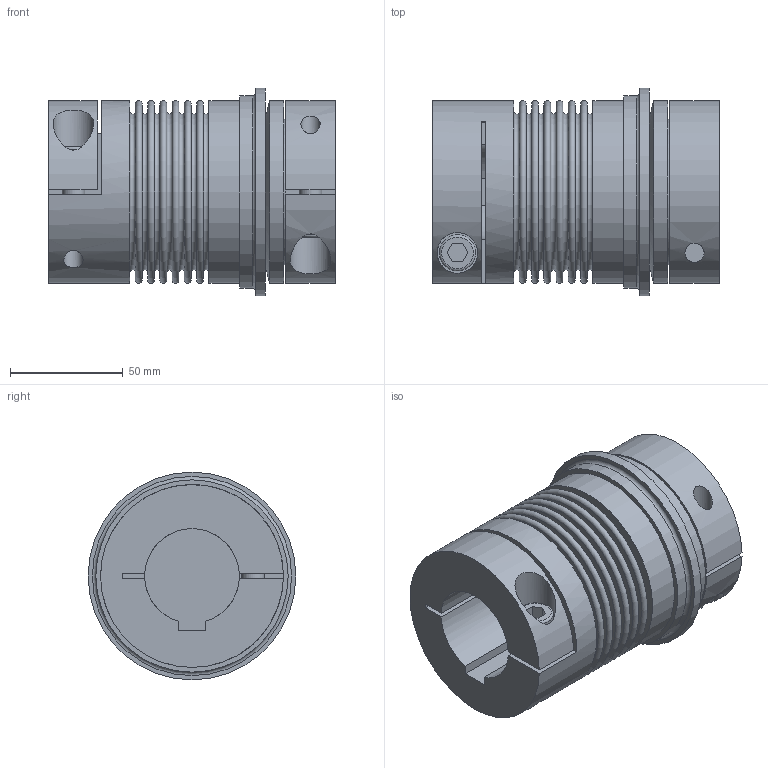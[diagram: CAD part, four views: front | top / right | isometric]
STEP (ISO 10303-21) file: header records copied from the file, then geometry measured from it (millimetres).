
FILE_DESCRIPTION(/* description */ ('STEP AP214'),/* implementation_level */ '2;1');
FILE_NAME(/* name */ 'C:\Diequa Files\DieQua Coupling\TB2\STP\TB2.80.127.WDG.#.#.stp',/* time_stamp */ '2019-04-26T10:41:39-05:00',/* author */ ('DiequaCAD'),/* organization */ (''),/* preprocessor_version */ 'ST-DEVELOPER v18',/* originating_system */ 'Autodesk Inventor 2020',/* authorisation */ ' ');
FILE_SCHEMA (('AUTOMOTIVE_DESIGN { 1 0 10303 214 3 1 1 }'));
Length unit declared in the file: millimetre
Products named in the file (1): TB2.80.127.WDG.#.#
Bounding box: 127 x 92 x 92 mm (x, y, z)
Volume: 523254.1 mm3; surface area: 87837.1 mm2
Topology: 1 solids, 1 shells, 98 faces, 232 edges, 164 vertices
Faces by surface type: plane 61, cylinder 20, torus 16, cone 1
Full cylindrical faces by diameter (mm): 8.5 x2, 10 x2, 11 x2, 16 x2, 18 x2, 65 x1, 81 x3, 85.2 x1, 92 x1
Entity records: 3121 total; most frequent: CARTESIAN_POINT 647, DIRECTION 547, ORIENTED_EDGE 464, EDGE_CURVE 232, AXIS2_PLACEMENT_3D 222, VERTEX_POINT 164, EDGE_LOOP 130, CIRCLE 123
